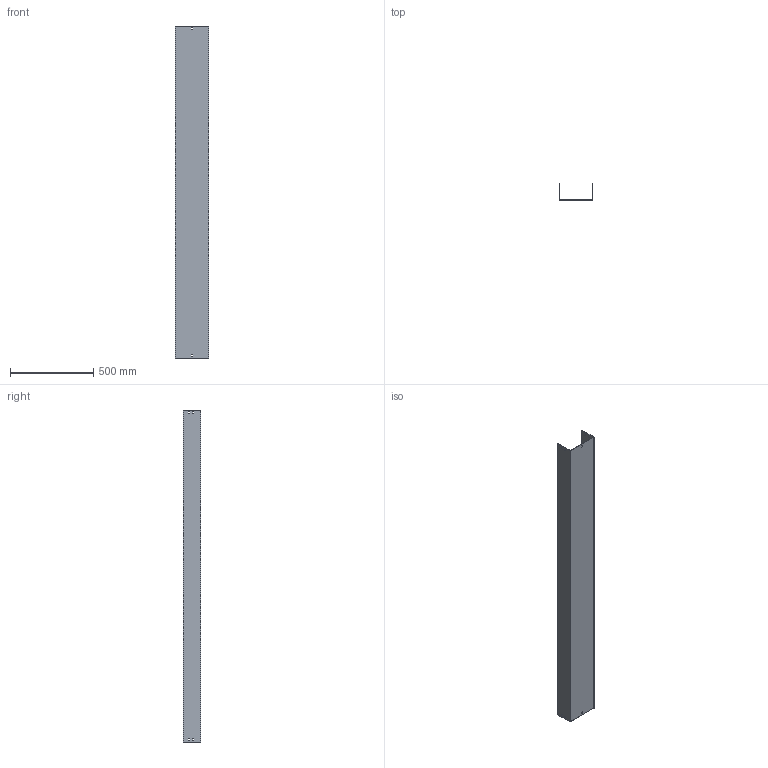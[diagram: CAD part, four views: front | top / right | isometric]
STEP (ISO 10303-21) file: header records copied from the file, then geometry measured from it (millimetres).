
FILE_DESCRIPTION (( 'STEP AP214' ), '1' );
FILE_NAME ('03F2D200.step', '2025-02-21T13:15:52', ( '' ), ( '' ), 'SwSTEP 2.0', 'SolidWorks 2023', '' );
FILE_SCHEMA (( 'AUTOMOTIVE_DESIGN' ));
Length unit declared in the file: millimetre
Products named in the file (1): 03F2D200
Bounding box: 204 x 104 x 2000 mm (x, y, z)
Volume: 2832630.5 mm3; surface area: 1636650 mm2
Topology: 1 solids, 1 shells, 50 faces, 144 edges, 96 vertices
Faces by surface type: plane 50
Entity records: 1671 total; most frequent: CARTESIAN_POINT 291, ORIENTED_EDGE 288, DIRECTION 246, EDGE_CURVE 144, VECTOR 144, LINE 144, VERTEX_POINT 96, EDGE_LOOP 70
